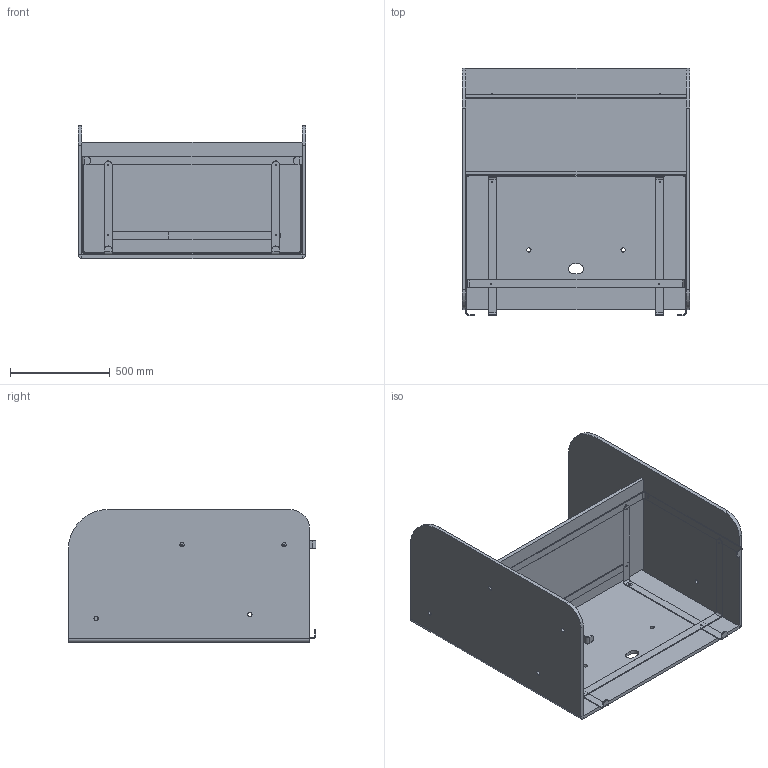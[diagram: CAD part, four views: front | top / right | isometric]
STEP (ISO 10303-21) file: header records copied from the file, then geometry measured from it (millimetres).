
FILE_DESCRIPTION (( 'STEP AP214' ), '1' );
FILE_NAME ('NIK_PUPI_BIG02.STEP', '2021-11-29T08:46:16', ( '' ), ( '' ), 'SwSTEP 2.0', 'SolidWorks 2019', '' );
FILE_SCHEMA (( 'AUTOMOTIVE_DESIGN' ));
Length unit declared in the file: millimetre
Products named in the file (8): EDE_SUP_01_01; EDE_SUP_03; NIK_PUPI_BIG02; 1104x120; 1104x550; SLC_T_01; EDE_SUP_01; EDE_SUP_01_02
Assembly tree (8 placements, depth 2):
  NIK_PUPI_BIG02
    EDE_SUP_01_01
    EDE_SUP_01
    EDE_SUP_03  x2
    EDE_SUP_01_02
    1104x550
    SLC_T_01
    1104x120
Bounding box: 1140 x 1240 x 666.91 mm (x, y, z)
Volume: 67985239.8 mm3; surface area: 8261478.4 mm2
Topology: 8 solids, 8 shells, 235 faces, 561 edges, 342 vertices
Faces by surface type: plane 115, cylinder 112, bspline 8
Entity records: 6358 total; most frequent: CARTESIAN_POINT 1160, DIRECTION 1052, ORIENTED_EDGE 974, EDGE_CURVE 487, AXIS2_PLACEMENT_3D 398, VERTEX_POINT 298, EDGE_LOOP 269, LINE 256
